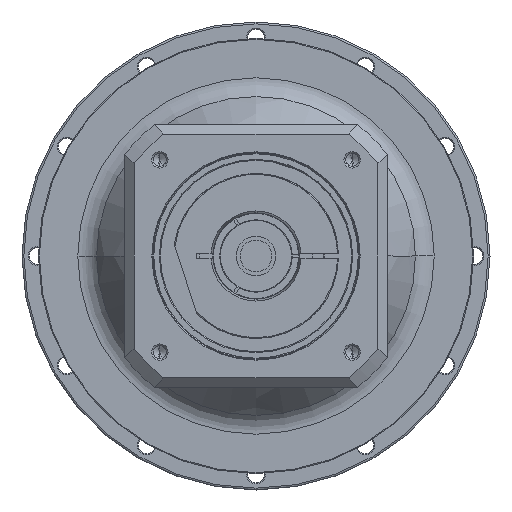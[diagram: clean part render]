
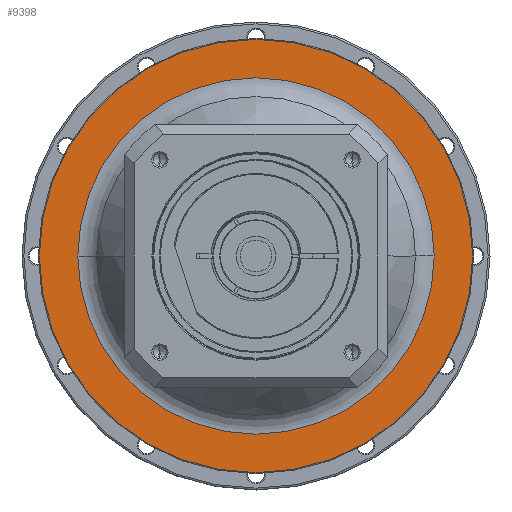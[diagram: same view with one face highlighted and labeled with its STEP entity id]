
A CAD part, left-side view. The second image highlights one B-rep face of the part: STEP entity #9398.
In plain terms, the highlighted planar face has unit normal (-1, 0, 0) as drawn and (1, 0, 0) by its records, which use the part's own axes.
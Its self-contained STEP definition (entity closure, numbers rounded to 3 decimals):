
#8381=CARTESIAN_POINT('',(-33.5,0.,0.));
#8382=DIRECTION('',(-1.,0.,0.));
#8383=DIRECTION('',(0.,-1.,0.));
#8384=AXIS2_PLACEMENT_3D('',#8381,#8382,#8383);
#8386=CARTESIAN_POINT('',(-33.5,0.,0.));
#8387=DIRECTION('',(-1.,0.,0.));
#8388=DIRECTION('',(0.,1.,0.));
#8389=AXIS2_PLACEMENT_3D('',#8386,#8387,#8388);
#8391=CARTESIAN_POINT('',(-33.5,0.,0.));
#8392=DIRECTION('',(1.,0.,0.));
#8393=DIRECTION('',(0.,1.,0.));
#8394=AXIS2_PLACEMENT_3D('',#8391,#8392,#8393);
#8401=CARTESIAN_POINT('',(-33.5,0.,0.));
#8402=DIRECTION('',(-1.,0.,0.));
#8403=DIRECTION('',(0.,1.,0.));
#8404=AXIS2_PLACEMENT_3D('',#8401,#8402,#8403);
#8669=CARTESIAN_POINT('',(-33.5,-115.5,0.));
#8670=CARTESIAN_POINT('',(-33.5,115.5,0.));
#8671=VERTEX_POINT('',#8669);
#8672=VERTEX_POINT('',#8670);
#8689=CARTESIAN_POINT('',(-33.5,95.,0.));
#8691=VERTEX_POINT('',#8689);
#8693=CARTESIAN_POINT('',(-33.5,-95.,0.));
#8695=VERTEX_POINT('',#8693);
#9383=CARTESIAN_POINT('',(-33.5,0.,0.));
#9384=DIRECTION('',(1.,0.,0.));
#9385=DIRECTION('',(0.,-1.,0.));
#9386=AXIS2_PLACEMENT_3D('',#9383,#9384,#9385);
#9387=PLANE('',#9386);
#9388=ORIENTED_EDGE('',*,*,#9339,.T.);
#9389=ORIENTED_EDGE('',*,*,#9324,.T.);
#9390=EDGE_LOOP('',(#9388,#9389));
#9391=FACE_OUTER_BOUND('',#9390,.F.);
#9393=ORIENTED_EDGE('',*,*,#9392,.T.);
#9395=ORIENTED_EDGE('',*,*,#9394,.F.);
#9396=EDGE_LOOP('',(#9393,#9395));
#9397=FACE_BOUND('',#9396,.F.);
#9398=ADVANCED_FACE('',(#9391,#9397),#9387,.T.);
#8385=CIRCLE('',#8384,115.5);
#8390=CIRCLE('',#8389,115.5);
#8395=CIRCLE('',#8394,95.);
#8405=CIRCLE('',#8404,95.);
#9324=EDGE_CURVE('',#8672,#8671,#8390,.T.);
#9339=EDGE_CURVE('',#8671,#8672,#8385,.T.);
#9392=EDGE_CURVE('',#8691,#8695,#8395,.T.);
#9394=EDGE_CURVE('',#8691,#8695,#8405,.T.);
